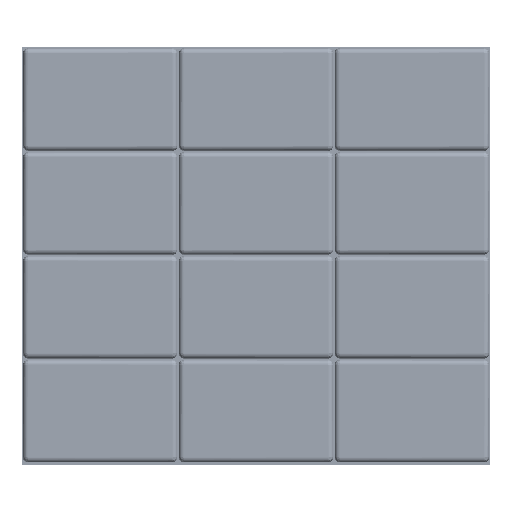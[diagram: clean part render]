
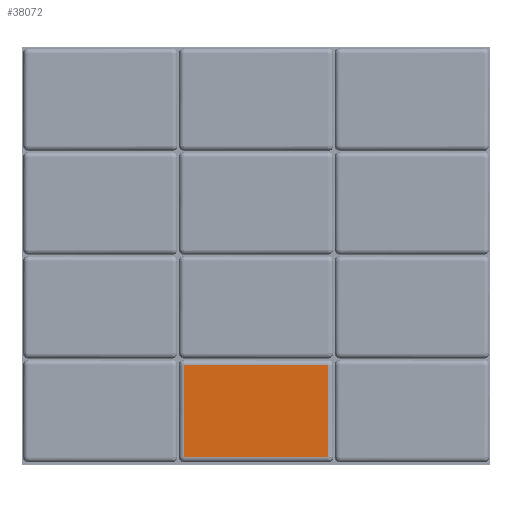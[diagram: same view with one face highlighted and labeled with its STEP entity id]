
A CAD part, front view. The second image highlights one B-rep face of the part: STEP entity #38072.
In plain terms, the highlighted planar face has unit normal (0, -1, 0).
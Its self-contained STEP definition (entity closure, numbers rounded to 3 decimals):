
#38072=ADVANCED_FACE('',(#71746),#598771,.T.);
#71746=FACE_OUTER_BOUND('',#108724,.T.);
#108724=EDGE_LOOP('',(#302853,#302854,#302855,#302856));
#302853=ORIENTED_EDGE('',*,*,#401922,.F.);
#302854=ORIENTED_EDGE('',*,*,#401924,.F.);
#302855=ORIENTED_EDGE('',*,*,#401923,.F.);
#302856=ORIENTED_EDGE('',*,*,#401921,.F.);
#401921=EDGE_CURVE('',#565938,#565939,#497514,.T.);
#401922=EDGE_CURVE('',#565940,#565938,#497515,.T.);
#401923=EDGE_CURVE('',#565939,#565941,#497516,.T.);
#401924=EDGE_CURVE('',#565941,#565940,#497517,.T.);
#497514=B_SPLINE_CURVE_WITH_KNOTS('',1,(#1150371,#1150372),
 .UNSPECIFIED.,.F.,.F.,(2,2),(20.,375.),.UNSPECIFIED.);
#497515=B_SPLINE_CURVE_WITH_KNOTS('',1,(#1150373,#1150374),
 .UNSPECIFIED.,.F.,.F.,(2,2),(20.,575.),.UNSPECIFIED.);
#497516=B_SPLINE_CURVE_WITH_KNOTS('',1,(#1150375,#1150376),
 .UNSPECIFIED.,.F.,.F.,(2,2),(20.,575.),.UNSPECIFIED.);
#497517=B_SPLINE_CURVE_WITH_KNOTS('',1,(#1150377,#1150378),
 .UNSPECIFIED.,.F.,.F.,(2,2),(20.,375.),.UNSPECIFIED.);
#565938=VERTEX_POINT('',#1150335);
#565939=VERTEX_POINT('',#1150336);
#565940=VERTEX_POINT('',#1150337);
#565941=VERTEX_POINT('',#1150338);
#598771=PLANE('',#629277);
#629277=AXIS2_PLACEMENT_3D('',#1150250,#659884,$);
#659884=DIRECTION('',(0.,-1.,0.));
#1150250=CARTESIAN_POINT('',(567.248,133.558,207.699));
#1150335=CARTESIAN_POINT('',(1142.248,133.558,187.699));
#1150336=CARTESIAN_POINT('',(1142.248,133.558,-167.301));
#1150337=CARTESIAN_POINT('',(587.248,133.558,187.699));
#1150338=CARTESIAN_POINT('',(587.248,133.558,-167.301));
#1150371=CARTESIAN_POINT('',(1142.248,133.558,187.699));
#1150372=CARTESIAN_POINT('',(1142.248,133.558,-167.301));
#1150373=CARTESIAN_POINT('',(587.248,133.558,187.699));
#1150374=CARTESIAN_POINT('',(1142.248,133.558,187.699));
#1150375=CARTESIAN_POINT('',(1142.248,133.558,-167.301));
#1150376=CARTESIAN_POINT('',(587.248,133.558,-167.301));
#1150377=CARTESIAN_POINT('',(587.248,133.558,-167.301));
#1150378=CARTESIAN_POINT('',(587.248,133.558,187.699));
